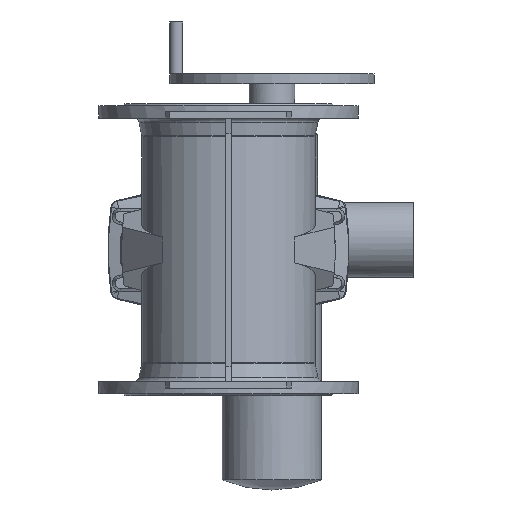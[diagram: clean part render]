
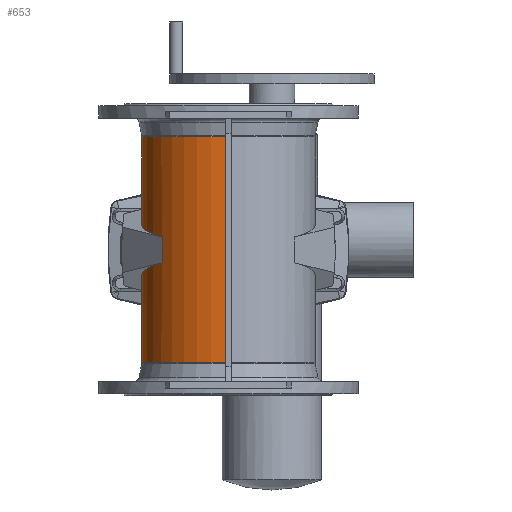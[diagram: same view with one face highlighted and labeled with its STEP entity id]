
A CAD part, front view. The second image highlights one B-rep face of the part: STEP entity #653.
In plain terms, the highlighted cylindrical face has radius 133.5 mm (diameter 267 mm), a partial arc.
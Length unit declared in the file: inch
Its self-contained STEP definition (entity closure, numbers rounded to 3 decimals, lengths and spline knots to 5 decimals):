
#653 = ADVANCED_FACE ( 'NONE', ( #5560 ), #5569, .T. ) ;
#834 = CARTESIAN_POINT ( 'NONE',  ( -0.16732, -5.25324, 27.71285 ) ) ;
#835 = DIRECTION ( 'NONE',  ( 0., 0., -1. ) ) ;
#1843 = CARTESIAN_POINT ( 'NONE',  ( -4.02626, -3.37843, 27.71285 ) ) ;
#1850 = DIRECTION ( 'NONE',  ( 0., 0., -1. ) ) ;
#2755 = CARTESIAN_POINT ( 'NONE',  ( -0.17717, 5.25292, 2.77006 ) ) ;
#2759 = CARTESIAN_POINT ( 'NONE',  ( -0.17717, 5.25292, -6.84782 ) ) ;
#2760 = CARTESIAN_POINT ( 'NONE',  ( -4.02626, -3.37843, -0.78772 ) ) ;
#2762 = CARTESIAN_POINT ( 'NONE',  ( -4.02626, -3.37843, 0.78772 ) ) ;
#2763 = CARTESIAN_POINT ( 'NONE',  ( -0.16732, -5.25324, -6.84782 ) ) ;
#2770 = CARTESIAN_POINT ( 'NONE',  ( -0.16732, -5.25324, 6.84782 ) ) ;
#2772 = CARTESIAN_POINT ( 'NONE',  ( -0.17717, 5.25292, -2.77006 ) ) ;
#2794 = CARTESIAN_POINT ( 'NONE',  ( -0.17717, 5.25292, 6.84782 ) ) ;
#3367 = DIRECTION ( 'NONE',  ( -1., 0., 0. ) ) ;
#3368 = DIRECTION ( 'NONE',  ( 0., 0., -1. ) ) ;
#3370 = CARTESIAN_POINT ( 'NONE',  ( 0., 0., 27.71285 ) ) ;
#3996 = VERTEX_POINT ( 'NONE', #2755 ) ;
#3999 = VERTEX_POINT ( 'NONE', #2759 ) ;
#4001 = VERTEX_POINT ( 'NONE', #2760 ) ;
#4003 = VERTEX_POINT ( 'NONE', #2762 ) ;
#4004 = VERTEX_POINT ( 'NONE', #2763 ) ;
#4011 = VERTEX_POINT ( 'NONE', #2770 ) ;
#4013 = VERTEX_POINT ( 'NONE', #2772 ) ;
#4035 = VERTEX_POINT ( 'NONE', #2794 ) ;
#5560 = FACE_OUTER_BOUND ( 'NONE', #10060, .T. ) ;
#5569 = CYLINDRICAL_SURFACE ( 'NONE', #6549, 5.25591 ) ;
#6316 =( BOUNDED_CURVE ( )  B_SPLINE_CURVE ( 3, ( #8012, #8022, #8067, #8068 ),
 .UNSPECIFIED., .F., .F. ) 
 B_SPLINE_CURVE_WITH_KNOTS ( ( 4, 4 ),
 ( 0.79219, 3.02741 ),
 .UNSPECIFIED. ) 
 CURVE ( )  GEOMETRIC_REPRESENTATION_ITEM ( )  RATIONAL_B_SPLINE_CURVE ( ( 1., 0.625, 0.625, 1. ) ) 
 REPRESENTATION_ITEM ( '' )  );
#6353 =( BOUNDED_CURVE ( )  B_SPLINE_CURVE ( 3, ( #12298, #12274, #12302, #12303 ),
 .UNSPECIFIED., .F., .F. ) 
 B_SPLINE_CURVE_WITH_KNOTS ( ( 4, 4 ),
 ( 0.79219, 3.02741 ),
 .UNSPECIFIED. ) 
 CURVE ( )  GEOMETRIC_REPRESENTATION_ITEM ( )  RATIONAL_B_SPLINE_CURVE ( ( 1., 0.625, 0.625, 1. ) ) 
 REPRESENTATION_ITEM ( '' )  );
#6549 = AXIS2_PLACEMENT_3D ( 'NONE', #3370, #3368, #3367 ) ;
#7387 = AXIS2_PLACEMENT_3D ( 'NONE', #7838, #7839, #7840 ) ;
#7409 = AXIS2_PLACEMENT_3D ( 'NONE', #11884, #11885, #11886 ) ;
#7838 = CARTESIAN_POINT ( 'NONE',  ( 0., 0., 6.84782 ) ) ;
#7839 = DIRECTION ( 'NONE',  ( 0., 0., 1. ) ) ;
#7840 = DIRECTION ( 'NONE',  ( 1., 0., 0. ) ) ;
#8012 = CARTESIAN_POINT ( 'NONE',  ( -4.02626, -3.37843, 0.78772 ) ) ;
#8022 = CARTESIAN_POINT ( 'NONE',  ( -7.26499, 0.48134, 1.58551 ) ) ;
#8067 = CARTESIAN_POINT ( 'NONE',  ( -5.21287, 5.08308, 2.64238 ) ) ;
#8068 = CARTESIAN_POINT ( 'NONE',  ( -0.17717, 5.25292, 2.77006 ) ) ;
#8368 = LINE ( 'NONE', #1843, #8373 ) ;
#8373 = VECTOR ( 'NONE', #1850, 39.37008 ) ;
#8404 = LINE ( 'NONE', #834, #8407 ) ;
#8407 = VECTOR ( 'NONE', #835, 39.37008 ) ;
#8796 = EDGE_CURVE ( 'NONE', #4003, #4001, #8368, .T. ) ;
#8832 = EDGE_CURVE ( 'NONE', #4011, #4004, #8404, .T. ) ;
#9374 = ORIENTED_EDGE ( 'NONE', *, *, #10648, .F. ) ;
#9375 = ORIENTED_EDGE ( 'NONE', *, *, #10635, .T. ) ;
#9376 = ORIENTED_EDGE ( 'NONE', *, *, #8832, .F. ) ;
#9377 = ORIENTED_EDGE ( 'NONE', *, *, #10562, .F. ) ;
#9378 = ORIENTED_EDGE ( 'NONE', *, *, #10652, .T. ) ;
#9379 = ORIENTED_EDGE ( 'NONE', *, *, #10600, .F. ) ;
#9380 = ORIENTED_EDGE ( 'NONE', *, *, #8796, .T. ) ;
#9381 = ORIENTED_EDGE ( 'NONE', *, *, #10702, .T. ) ;
#10060 = EDGE_LOOP ( 'NONE', ( #9374, #9375, #9376, #9377, #9378, #9379, #9380, #9381 ) ) ;
#10562 = EDGE_CURVE ( 'NONE', #4035, #4011, #11025, .T. ) ;
#10600 = EDGE_CURVE ( 'NONE', #4003, #3996, #6316, .T. ) ;
#10635 = EDGE_CURVE ( 'NONE', #3999, #4004, #11092, .T. ) ;
#10648 = EDGE_CURVE ( 'NONE', #3999, #4013, #11102, .T. ) ;
#10652 = EDGE_CURVE ( 'NONE', #4035, #3996, #11106, .T. ) ;
#10702 = EDGE_CURVE ( 'NONE', #4001, #4013, #6353, .T. ) ;
#11025 = CIRCLE ( 'NONE', #7387, 5.25591 ) ;
#11092 = CIRCLE ( 'NONE', #7409, 5.25591 ) ;
#11102 = LINE ( 'NONE', #11955, #11103 ) ;
#11103 = VECTOR ( 'NONE', #11956, 39.37008 ) ;
#11106 = LINE ( 'NONE', #11959, #11108 ) ;
#11108 = VECTOR ( 'NONE', #11966, 39.37008 ) ;
#11884 = CARTESIAN_POINT ( 'NONE',  ( 0., 0., -6.84782 ) ) ;
#11885 = DIRECTION ( 'NONE',  ( 0., 0., 1. ) ) ;
#11886 = DIRECTION ( 'NONE',  ( 1., 0., 0. ) ) ;
#11955 = CARTESIAN_POINT ( 'NONE',  ( -0.17717, 5.25292, 0. ) ) ;
#11956 = DIRECTION ( 'NONE',  ( 0., 0., 1. ) ) ;
#11959 = CARTESIAN_POINT ( 'NONE',  ( -0.17717, 5.25292, 0. ) ) ;
#11966 = DIRECTION ( 'NONE',  ( 0., 0., -1. ) ) ;
#12274 = CARTESIAN_POINT ( 'NONE',  ( -7.26499, 0.48134, -1.58551 ) ) ;
#12298 = CARTESIAN_POINT ( 'NONE',  ( -4.02626, -3.37843, -0.78772 ) ) ;
#12302 = CARTESIAN_POINT ( 'NONE',  ( -5.21287, 5.08308, -2.64238 ) ) ;
#12303 = CARTESIAN_POINT ( 'NONE',  ( -0.17717, 5.25292, -2.77006 ) ) ;
